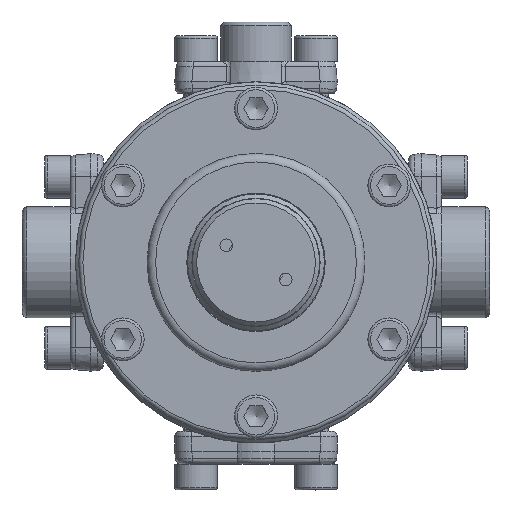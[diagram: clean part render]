
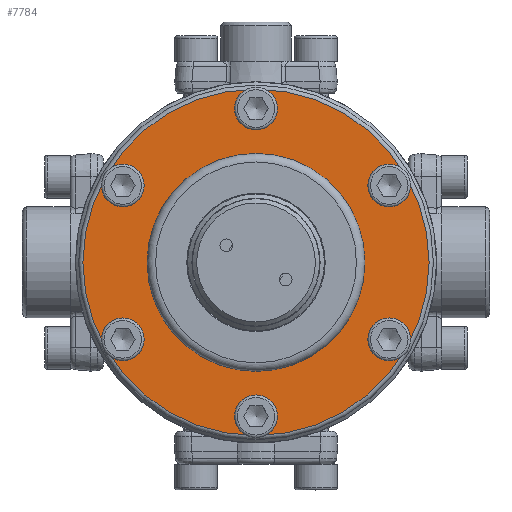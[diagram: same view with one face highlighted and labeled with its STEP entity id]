
A CAD part, front view. The second image highlights one B-rep face of the part: STEP entity #7784.
In plain terms, the highlighted planar face has unit normal (0, -1, 0) as drawn and (0, 1, 0) by its records, which use the part's own axes.
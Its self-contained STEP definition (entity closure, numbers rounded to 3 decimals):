
#519=PLANE('',#9016);
#711=FACE_BOUND('',#1344,.T.);
#712=FACE_BOUND('',#1345,.T.);
#713=FACE_BOUND('',#1346,.T.);
#714=FACE_BOUND('',#1347,.T.);
#715=FACE_BOUND('',#1348,.T.);
#716=FACE_BOUND('',#1349,.T.);
#717=FACE_BOUND('',#1350,.T.);
#896=FACE_OUTER_BOUND('',#1343,.T.);
#1343=EDGE_LOOP('',(#5853,#5854));
#1344=EDGE_LOOP('',(#5855,#5856));
#1345=EDGE_LOOP('',(#5857,#5858));
#1346=EDGE_LOOP('',(#5859,#5860));
#1347=EDGE_LOOP('',(#5861,#5862));
#1348=EDGE_LOOP('',(#5863,#5864));
#1349=EDGE_LOOP('',(#5865,#5866));
#1350=EDGE_LOOP('',(#5867,#5868));
#2804=CIRCLE('',#9014,25.5);
#2805=CIRCLE('',#9015,25.5);
#2806=CIRCLE('',#9017,40.5);
#2807=CIRCLE('',#9018,40.5);
#2808=CIRCLE('',#9019,3.25);
#2809=CIRCLE('',#9020,3.25);
#2810=CIRCLE('',#9021,3.25);
#2811=CIRCLE('',#9022,3.25);
#2812=CIRCLE('',#9023,3.25);
#2813=CIRCLE('',#9024,3.25);
#2814=CIRCLE('',#9025,3.25);
#2815=CIRCLE('',#9026,3.25);
#2816=CIRCLE('',#9027,3.25);
#2817=CIRCLE('',#9028,3.25);
#2818=CIRCLE('',#9029,3.25);
#2819=CIRCLE('',#9030,3.25);
#3473=VERTEX_POINT('',#13693);
#3474=VERTEX_POINT('',#13694);
#3475=VERTEX_POINT('',#13699);
#3476=VERTEX_POINT('',#13700);
#3477=VERTEX_POINT('',#13703);
#3478=VERTEX_POINT('',#13704);
#3479=VERTEX_POINT('',#13707);
#3480=VERTEX_POINT('',#13708);
#3481=VERTEX_POINT('',#13711);
#3482=VERTEX_POINT('',#13712);
#3483=VERTEX_POINT('',#13715);
#3484=VERTEX_POINT('',#13716);
#3485=VERTEX_POINT('',#13719);
#3486=VERTEX_POINT('',#13720);
#3487=VERTEX_POINT('',#13723);
#3488=VERTEX_POINT('',#13724);
#4357=EDGE_CURVE('',#3473,#3474,#2804,.T.);
#4359=EDGE_CURVE('',#3474,#3473,#2805,.T.);
#4360=EDGE_CURVE('',#3475,#3476,#2806,.T.);
#4361=EDGE_CURVE('',#3476,#3475,#2807,.T.);
#4362=EDGE_CURVE('',#3477,#3478,#2808,.T.);
#4363=EDGE_CURVE('',#3478,#3477,#2809,.T.);
#4364=EDGE_CURVE('',#3479,#3480,#2810,.T.);
#4365=EDGE_CURVE('',#3480,#3479,#2811,.T.);
#4366=EDGE_CURVE('',#3481,#3482,#2812,.T.);
#4367=EDGE_CURVE('',#3482,#3481,#2813,.T.);
#4368=EDGE_CURVE('',#3483,#3484,#2814,.T.);
#4369=EDGE_CURVE('',#3484,#3483,#2815,.T.);
#4370=EDGE_CURVE('',#3485,#3486,#2816,.T.);
#4371=EDGE_CURVE('',#3486,#3485,#2817,.T.);
#4372=EDGE_CURVE('',#3487,#3488,#2818,.T.);
#4373=EDGE_CURVE('',#3488,#3487,#2819,.T.);
#5853=ORIENTED_EDGE('',*,*,#4360,.F.);
#5854=ORIENTED_EDGE('',*,*,#4361,.F.);
#5855=ORIENTED_EDGE('',*,*,#4357,.F.);
#5856=ORIENTED_EDGE('',*,*,#4359,.F.);
#5857=ORIENTED_EDGE('',*,*,#4362,.T.);
#5858=ORIENTED_EDGE('',*,*,#4363,.T.);
#5859=ORIENTED_EDGE('',*,*,#4364,.T.);
#5860=ORIENTED_EDGE('',*,*,#4365,.T.);
#5861=ORIENTED_EDGE('',*,*,#4366,.T.);
#5862=ORIENTED_EDGE('',*,*,#4367,.T.);
#5863=ORIENTED_EDGE('',*,*,#4368,.T.);
#5864=ORIENTED_EDGE('',*,*,#4369,.T.);
#5865=ORIENTED_EDGE('',*,*,#4370,.T.);
#5866=ORIENTED_EDGE('',*,*,#4371,.T.);
#5867=ORIENTED_EDGE('',*,*,#4372,.T.);
#5868=ORIENTED_EDGE('',*,*,#4373,.T.);
#7784=ADVANCED_FACE('',(#896,#711,#712,#713,#714,#715,#716,#717),#519,.T.);
#9014=AXIS2_PLACEMENT_3D('',#13695,#10474,#10475);
#9015=AXIS2_PLACEMENT_3D('',#13697,#10477,#10478);
#9016=AXIS2_PLACEMENT_3D('',#13698,#10479,#10480);
#9017=AXIS2_PLACEMENT_3D('',#13701,#10481,#10482);
#9018=AXIS2_PLACEMENT_3D('',#13702,#10483,#10484);
#9019=AXIS2_PLACEMENT_3D('',#13705,#10485,#10486);
#9020=AXIS2_PLACEMENT_3D('',#13706,#10487,#10488);
#9021=AXIS2_PLACEMENT_3D('',#13709,#10489,#10490);
#9022=AXIS2_PLACEMENT_3D('',#13710,#10491,#10492);
#9023=AXIS2_PLACEMENT_3D('',#13713,#10493,#10494);
#9024=AXIS2_PLACEMENT_3D('',#13714,#10495,#10496);
#9025=AXIS2_PLACEMENT_3D('',#13717,#10497,#10498);
#9026=AXIS2_PLACEMENT_3D('',#13718,#10499,#10500);
#9027=AXIS2_PLACEMENT_3D('',#13721,#10501,#10502);
#9028=AXIS2_PLACEMENT_3D('',#13722,#10503,#10504);
#9029=AXIS2_PLACEMENT_3D('',#13725,#10505,#10506);
#9030=AXIS2_PLACEMENT_3D('',#13726,#10507,#10508);
#10474=DIRECTION('center_axis',(0.,1.,0.));
#10475=DIRECTION('ref_axis',(1.,0.,0.));
#10477=DIRECTION('center_axis',(0.,1.,0.));
#10478=DIRECTION('ref_axis',(1.,0.,0.));
#10479=DIRECTION('center_axis',(0.,1.,0.));
#10480=DIRECTION('ref_axis',(0.,0.,
1.));
#10481=DIRECTION('center_axis',(0.,-1.,0.));
#10482=DIRECTION('ref_axis',(-1.,0.,0.));
#10483=DIRECTION('center_axis',(0.,-1.,0.));
#10484=DIRECTION('ref_axis',(-1.,0.,0.));
#10485=DIRECTION('center_axis',(0.,-1.,0.));
#10486=DIRECTION('ref_axis',(-0.5,0.,-0.866));
#10487=DIRECTION('center_axis',(0.,-1.,0.));
#10488=DIRECTION('ref_axis',(-0.5,0.,-0.866));
#10489=DIRECTION('center_axis',(0.,-1.,0.));
#10490=DIRECTION('ref_axis',(-1.,0.,0.));
#10491=DIRECTION('center_axis',(0.,-1.,0.));
#10492=DIRECTION('ref_axis',(-1.,0.,0.));
#10493=DIRECTION('center_axis',(0.,-1.,0.));
#10494=DIRECTION('ref_axis',(0.5,0.,-0.866));
#10495=DIRECTION('center_axis',(0.,-1.,0.));
#10496=DIRECTION('ref_axis',(0.5,0.,-0.866));
#10497=DIRECTION('center_axis',(0.,-1.,0.));
#10498=DIRECTION('ref_axis',(-0.5,0.,0.866));
#10499=DIRECTION('center_axis',(0.,-1.,0.));
#10500=DIRECTION('ref_axis',(-0.5,0.,0.866));
#10501=DIRECTION('center_axis',(0.,-1.,0.));
#10502=DIRECTION('ref_axis',(1.,0.,0.));
#10503=DIRECTION('center_axis',(0.,-1.,0.));
#10504=DIRECTION('ref_axis',(1.,0.,0.));
#10505=DIRECTION('center_axis',(0.,-1.,0.));
#10506=DIRECTION('ref_axis',(0.5,0.,0.866));
#10507=DIRECTION('center_axis',(0.,-1.,0.));
#10508=DIRECTION('ref_axis',(0.5,0.,0.866));
#13693=CARTESIAN_POINT('',(25.5,8.,0.));
#13694=CARTESIAN_POINT('',(-25.5,8.,0.));
#13695=CARTESIAN_POINT('Origin',(0.,8.,0.));
#13697=CARTESIAN_POINT('Origin',(0.,8.,0.));
#13698=CARTESIAN_POINT('Origin',(36.,8.,0.));
#13699=CARTESIAN_POINT('',(40.5,8.,0.));
#13700=CARTESIAN_POINT('',(0.,8.,40.5));
#13701=CARTESIAN_POINT('Origin',(0.,8.,0.));
#13702=CARTESIAN_POINT('Origin',(0.,8.,0.));
#13703=CARTESIAN_POINT('',(-19.625,8.,-33.991));
#13704=CARTESIAN_POINT('',(-16.375,8.,-28.362));
#13705=CARTESIAN_POINT('Origin',(-18.,8.,-31.177));
#13706=CARTESIAN_POINT('Origin',(-18.,8.,-31.177));
#13707=CARTESIAN_POINT('',(-34.501,8.,-2.884));
#13708=CARTESIAN_POINT('',(-32.75,8.,0.));
#13709=CARTESIAN_POINT('Origin',(-36.,8.,0.));
#13710=CARTESIAN_POINT('Origin',(-36.,8.,0.));
#13711=CARTESIAN_POINT('',(19.625,8.,-33.991));
#13712=CARTESIAN_POINT('',(16.375,8.,-28.362));
#13713=CARTESIAN_POINT('Origin',(18.,8.,-31.177));
#13714=CARTESIAN_POINT('Origin',(18.,8.,-31.177));
#13715=CARTESIAN_POINT('',(-19.748,8.,28.437));
#13716=CARTESIAN_POINT('',(-16.375,8.,28.362));
#13717=CARTESIAN_POINT('Origin',(-18.,8.,31.177));
#13718=CARTESIAN_POINT('Origin',(-18.,8.,31.177));
#13719=CARTESIAN_POINT('',(39.25,8.,0.));
#13720=CARTESIAN_POINT('',(32.75,8.,0.));
#13721=CARTESIAN_POINT('Origin',(36.,8.,0.));
#13722=CARTESIAN_POINT('Origin',(36.,8.,0.));
#13723=CARTESIAN_POINT('',(14.753,8.,31.32));
#13724=CARTESIAN_POINT('',(16.375,8.,28.362));
#13725=CARTESIAN_POINT('Origin',(18.,8.,31.177));
#13726=CARTESIAN_POINT('Origin',(18.,8.,31.177));
